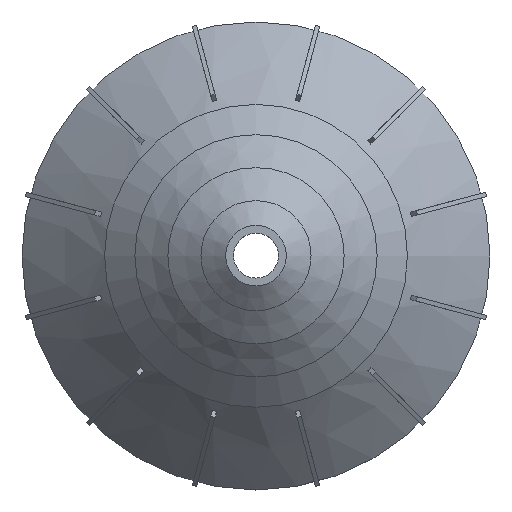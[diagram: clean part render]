
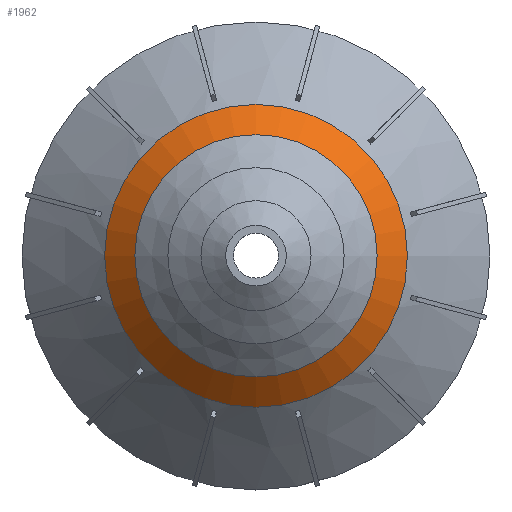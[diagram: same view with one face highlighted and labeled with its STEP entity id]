
A CAD part, top view. The second image highlights one B-rep face of the part: STEP entity #1962.
In plain terms, the highlighted conical face has half-angle 47.726 degrees and reference radius 55 mm.
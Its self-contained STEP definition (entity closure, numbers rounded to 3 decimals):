
#201 = CONICAL_SURFACE('',#202,85.,0.785);
#202 = AXIS2_PLACEMENT_3D('',#203,#204,#205);
#203 = CARTESIAN_POINT('',(0.,0.,101.));
#204 = DIRECTION('',(-0.,-0.,-1.));
#205 = DIRECTION('',(1.,0.,-0.));
#274 = VERTEX_POINT('',#275);
#275 = CARTESIAN_POINT('',(55.,0.,131.));
#296 = EDGE_CURVE('',#274,#274,#297,.T.);
#297 = SURFACE_CURVE('',#298,(#303,#310),.PCURVE_S1.);
#298 = CIRCLE('',#299,55.);
#299 = AXIS2_PLACEMENT_3D('',#300,#301,#302);
#300 = CARTESIAN_POINT('',(0.,0.,131.));
#301 = DIRECTION('',(0.,0.,1.));
#302 = DIRECTION('',(1.,0.,-0.));
#303 = PCURVE('',#201,#304);
#304 = DEFINITIONAL_REPRESENTATION('',(#305),#309);
#305 = LINE('',#306,#307);
#306 = CARTESIAN_POINT('',(-0.,-30.));
#307 = VECTOR('',#308,1.);
#308 = DIRECTION('',(-1.,-0.));
#309 = ( GEOMETRIC_REPRESENTATION_CONTEXT(2) 
PARAMETRIC_REPRESENTATION_CONTEXT() REPRESENTATION_CONTEXT('2D SPACE',''
  ) );
#310 = PCURVE('',#311,#316);
#311 = CONICAL_SURFACE('',#312,55.,0.833);
#312 = AXIS2_PLACEMENT_3D('',#313,#314,#315);
#313 = CARTESIAN_POINT('',(0.,0.,131.));
#314 = DIRECTION('',(-0.,-0.,-1.));
#315 = DIRECTION('',(1.,0.,-0.));
#316 = DEFINITIONAL_REPRESENTATION('',(#317),#321);
#317 = LINE('',#318,#319);
#318 = CARTESIAN_POINT('',(-0.,-0.));
#319 = VECTOR('',#320,1.);
#320 = DIRECTION('',(-1.,-0.));
#321 = ( GEOMETRIC_REPRESENTATION_CONTEXT(2) 
PARAMETRIC_REPRESENTATION_CONTEXT() REPRESENTATION_CONTEXT('2D SPACE',''
  ) );
#1962 = ADVANCED_FACE('',(#1963),#311,.T.);
#1963 = FACE_BOUND('',#1964,.T.);
#1964 = EDGE_LOOP('',(#1965,#1966,#1989,#2016));
#1965 = ORIENTED_EDGE('',*,*,#296,.T.);
#1966 = ORIENTED_EDGE('',*,*,#1967,.T.);
#1967 = EDGE_CURVE('',#274,#1968,#1970,.T.);
#1968 = VERTEX_POINT('',#1969);
#1969 = CARTESIAN_POINT('',(44.,0.,141.));
#1970 = SEAM_CURVE('',#1971,(#1975,#1982),.PCURVE_S1.);
#1971 = LINE('',#1972,#1973);
#1972 = CARTESIAN_POINT('',(55.,0.,131.));
#1973 = VECTOR('',#1974,1.);
#1974 = DIRECTION('',(-0.74,0.,0.673));
#1975 = PCURVE('',#311,#1976);
#1976 = DEFINITIONAL_REPRESENTATION('',(#1977),#1981);
#1977 = LINE('',#1978,#1979);
#1978 = CARTESIAN_POINT('',(-0.,-0.));
#1979 = VECTOR('',#1980,1.);
#1980 = DIRECTION('',(-0.,-1.));
#1981 = ( GEOMETRIC_REPRESENTATION_CONTEXT(2) 
PARAMETRIC_REPRESENTATION_CONTEXT() REPRESENTATION_CONTEXT('2D SPACE',''
  ) );
#1982 = PCURVE('',#311,#1983);
#1983 = DEFINITIONAL_REPRESENTATION('',(#1984),#1988);
#1984 = LINE('',#1985,#1986);
#1985 = CARTESIAN_POINT('',(-6.283,-0.));
#1986 = VECTOR('',#1987,1.);
#1987 = DIRECTION('',(-0.,-1.));
#1988 = ( GEOMETRIC_REPRESENTATION_CONTEXT(2) 
PARAMETRIC_REPRESENTATION_CONTEXT() REPRESENTATION_CONTEXT('2D SPACE',''
  ) );
#1989 = ORIENTED_EDGE('',*,*,#1990,.F.);
#1990 = EDGE_CURVE('',#1968,#1968,#1991,.T.);
#1991 = SURFACE_CURVE('',#1992,(#1997,#2004),.PCURVE_S1.);
#1992 = CIRCLE('',#1993,44.);
#1993 = AXIS2_PLACEMENT_3D('',#1994,#1995,#1996);
#1994 = CARTESIAN_POINT('',(0.,0.,141.));
#1995 = DIRECTION('',(0.,0.,1.));
#1996 = DIRECTION('',(1.,0.,-0.));
#1997 = PCURVE('',#311,#1998);
#1998 = DEFINITIONAL_REPRESENTATION('',(#1999),#2003);
#1999 = LINE('',#2000,#2001);
#2000 = CARTESIAN_POINT('',(-0.,-10.));
#2001 = VECTOR('',#2002,1.);
#2002 = DIRECTION('',(-1.,-0.));
#2003 = ( GEOMETRIC_REPRESENTATION_CONTEXT(2) 
PARAMETRIC_REPRESENTATION_CONTEXT() REPRESENTATION_CONTEXT('2D SPACE',''
  ) );
#2004 = PCURVE('',#2005,#2010);
#2005 = CONICAL_SURFACE('',#2006,44.,0.829);
#2006 = AXIS2_PLACEMENT_3D('',#2007,#2008,#2009);
#2007 = CARTESIAN_POINT('',(0.,0.,141.));
#2008 = DIRECTION('',(-0.,-0.,-1.));
#2009 = DIRECTION('',(1.,0.,-0.));
#2010 = DEFINITIONAL_REPRESENTATION('',(#2011),#2015);
#2011 = LINE('',#2012,#2013);
#2012 = CARTESIAN_POINT('',(-0.,-0.));
#2013 = VECTOR('',#2014,1.);
#2014 = DIRECTION('',(-1.,-0.));
#2015 = ( GEOMETRIC_REPRESENTATION_CONTEXT(2) 
PARAMETRIC_REPRESENTATION_CONTEXT() REPRESENTATION_CONTEXT('2D SPACE',''
  ) );
#2016 = ORIENTED_EDGE('',*,*,#1967,.F.);
